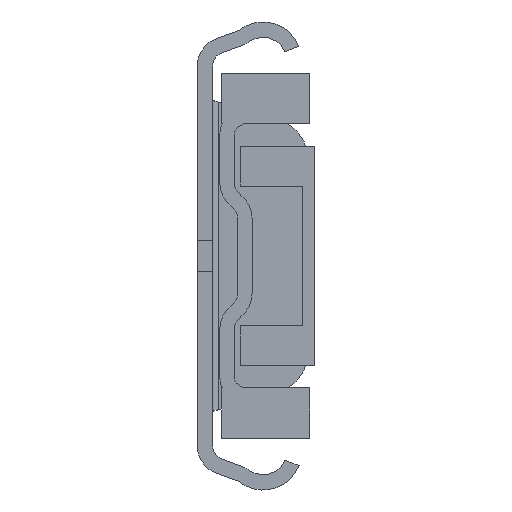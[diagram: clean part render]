
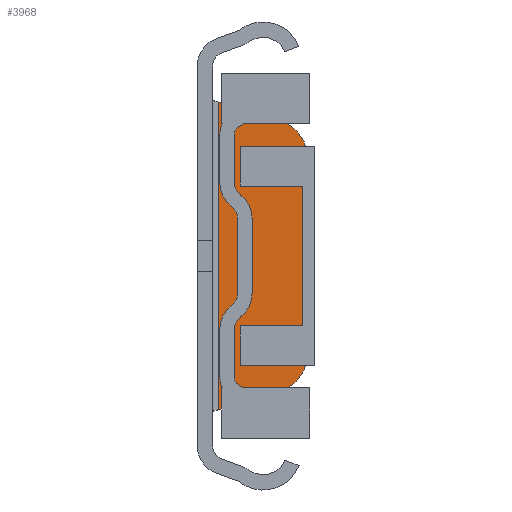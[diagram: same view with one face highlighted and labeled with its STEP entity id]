
A CAD part, front view. The second image highlights one B-rep face of the part: STEP entity #3968.
In plain terms, the highlighted planar face has unit normal (0, -1, 0).
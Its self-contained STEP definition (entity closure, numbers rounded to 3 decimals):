
#338=LINE('',#6826,#722);
#339=LINE('',#6831,#723);
#340=LINE('',#6835,#724);
#341=LINE('',#6837,#725);
#722=VECTOR('',#5654,1000.);
#723=VECTOR('',#5657,1000.);
#724=VECTOR('',#5660,1000.);
#725=VECTOR('',#5661,1000.);
#890=PLANE('',#4709);
#1746=ORIENTED_EDGE('',*,*,#2470,.F.);
#1747=ORIENTED_EDGE('',*,*,#2471,.F.);
#1748=ORIENTED_EDGE('',*,*,#2472,.F.);
#1749=ORIENTED_EDGE('',*,*,#2473,.F.);
#1750=ORIENTED_EDGE('',*,*,#2474,.F.);
#1751=ORIENTED_EDGE('',*,*,#2475,.F.);
#2470=EDGE_CURVE('',#2908,#2909,#338,.T.);
#2471=EDGE_CURVE('',#2910,#2908,#3136,.F.);
#2472=EDGE_CURVE('',#2911,#2910,#339,.T.);
#2473=EDGE_CURVE('',#2912,#2911,#3137,.F.);
#2474=EDGE_CURVE('',#2913,#2912,#340,.T.);
#2475=EDGE_CURVE('',#2909,#2913,#341,.T.);
#2908=VERTEX_POINT('',#6827);
#2909=VERTEX_POINT('',#6828);
#2910=VERTEX_POINT('',#6830);
#2911=VERTEX_POINT('',#6832);
#2912=VERTEX_POINT('',#6834);
#2913=VERTEX_POINT('',#6836);
#3136=CIRCLE('',#4710,8.);
#3137=CIRCLE('',#4711,8.);
#3380=EDGE_LOOP('',(#1746,#1747,#1748,#1749,#1750,#1751));
#3650=FACE_BOUND('',#3380,.T.);
#3968=ADVANCED_FACE('',(#3650),#890,.T.);
#4709=AXIS2_PLACEMENT_3D('',#6825,#5652,#5653);
#4710=AXIS2_PLACEMENT_3D('',#6829,#5655,#5656);
#4711=AXIS2_PLACEMENT_3D('',#6833,#5658,#5659);
#5652=DIRECTION('',(0.,-1.,0.));
#5653=DIRECTION('',(0.,0.,-1.));
#5654=DIRECTION('',(-0.966,0.,-0.259));
#5655=DIRECTION('',(0.,-1.,0.));
#5656=DIRECTION('',(0.,0.,-1.));
#5657=DIRECTION('',(0.,0.,-1.));
#5658=DIRECTION('',(0.,-1.,0.));
#5659=DIRECTION('',(0.,0.,-1.));
#5660=DIRECTION('',(0.966,0.,-0.259));
#5661=DIRECTION('',(0.,0.,1.));
#6825=CARTESIAN_POINT('',(12.9,1775.5,14.965));
#6826=CARTESIAN_POINT('',(22.316,1775.5,-20.174));
#6827=CARTESIAN_POINT('',(12.471,1775.5,-22.812));
#6828=CARTESIAN_POINT('',(3.5,1775.5,-25.216));
#6829=CARTESIAN_POINT('',(10.4,1775.5,-15.085));
#6830=CARTESIAN_POINT('',(18.4,1775.5,-15.085));
#6831=CARTESIAN_POINT('',(18.4,1775.5,14.965));
#6832=CARTESIAN_POINT('',(18.4,1775.5,15.085));
#6833=CARTESIAN_POINT('',(10.4,1775.5,15.085));
#6834=CARTESIAN_POINT('',(12.471,1775.5,22.812));
#6835=CARTESIAN_POINT('',(14.833,1775.5,22.179));
#6836=CARTESIAN_POINT('',(3.5,1775.5,25.216));
#6837=CARTESIAN_POINT('',(3.5,1775.5,-25.766));
